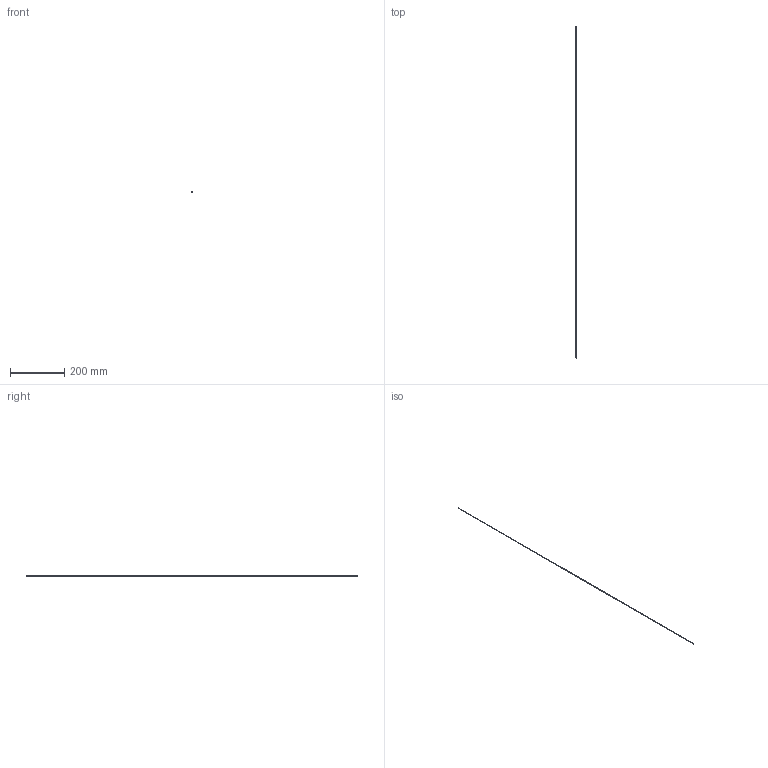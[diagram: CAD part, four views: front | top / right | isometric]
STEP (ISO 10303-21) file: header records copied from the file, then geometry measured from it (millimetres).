
FILE_DESCRIPTION(/* description */ (''),/* implementation_level */ '2;1');
FILE_NAME(/* name */ 'C:/Users/drich/Desktop/HF072T-48 v1.step',/* time_stamp */ '2019-12-30T13:35:24-06:00',/* author */ (''),/* organization */ (''),/* preprocessor_version */ 'ST-DEVELOPER v18',/* originating_system */ 'Autodesk Translation Framework v8.12.0.6',/* authorisation */ '');
FILE_SCHEMA (('AUTOMOTIVE_DESIGN { 1 0 10303 214 3 1 1 }'));
Length unit declared in the file: inch
Products named in the file (1): HF072T-48
Bounding box: 3.21 x 1219.2 x 3.23 mm (x, y, z)
Volume: 996.3 mm3; surface area: 12867.7 mm2
Topology: 1 solids, 1 shells, 10 faces, 22 edges, 16 vertices
Faces by surface type: cylinder 4, plane 4, cone 1, torus 1
Full cylindrical faces by diameter (mm): 1.524 x1, 1.829 x1, 3.096 x1, 3.226 x1
Entity records: 342 total; most frequent: DIRECTION 61, CARTESIAN_POINT 51, ORIENTED_EDGE 44, AXIS2_PLACEMENT_3D 28, EDGE_CURVE 22, VERTEX_POINT 18, CIRCLE 17, EDGE_LOOP 16
